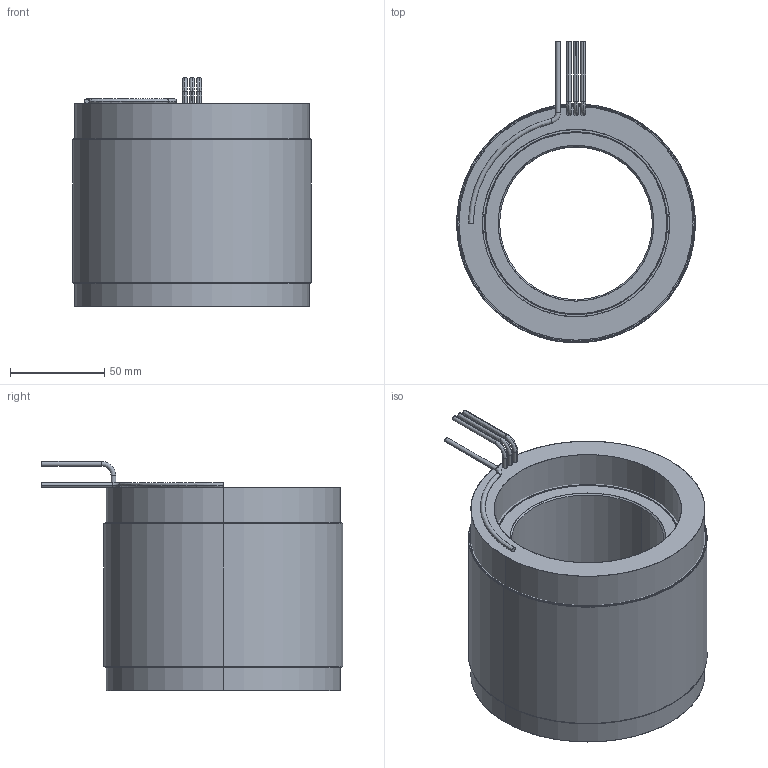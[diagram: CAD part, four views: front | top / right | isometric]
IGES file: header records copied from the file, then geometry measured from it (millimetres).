
Start section: SolidWorks IGES file using analytic representation for surfaces
Global section: file name: \\fs01.aveox.local\user documents\eng\My Documents\6100398-XX STATOR AND ROTOR SET, UT-5000-24P4, SENSORLESS TABULATED\6100398-06.IGS; native system: SolidWorks 2016; preprocessor: SolidWorks 2016; author: eng; date: 201226.190805; units: inch
Bounding box: 127 x 160.29 x 121.92 mm (x, y, z)
Surface area: 238824.9 mm2 (no closed solid volume)
Topology: 0 solids, 0 shells, 75 faces, 2224 edges, 2224 vertices
Faces by surface type: revolution 46, bspline 29
